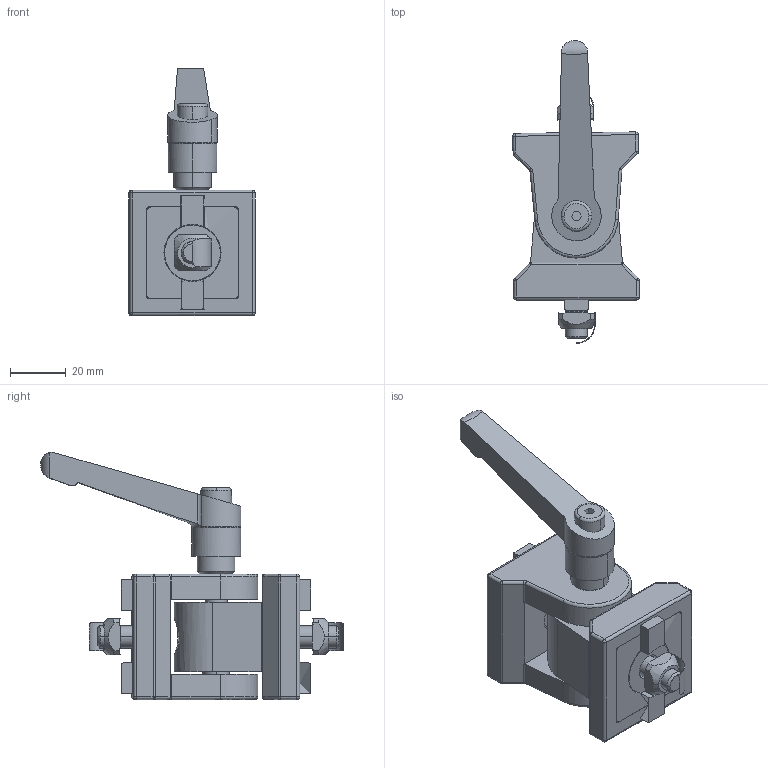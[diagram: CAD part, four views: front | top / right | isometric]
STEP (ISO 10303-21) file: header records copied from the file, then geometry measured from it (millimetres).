
FILE_DESCRIPTION (( 'STEP AP214' ), '1' );
FILE_NAME ('1.4052 Kulmauloke GL Kiristettävä.STEP', '2025-09-11T10:58:37', ( '' ), ( '' ), 'SwSTEP 2.0', 'SolidWorks 2025', '' );
FILE_SCHEMA (( 'AUTOMOTIVE_DESIGN' ));
Length unit declared in the file: millimetre
Products named in the file (3): Alaosa; 1.4052 Kulmauloke GL Kiristettävä; Yläosa
Assembly tree (2 placements, depth 2):
  1.4052 Kulmauloke GL Kiristettävä
    Alaosa
    Yläosa
Bounding box: 45.35 x 108.63 x 88.69 mm (x, y, z)
Surface area: 33206.6 mm2 (no closed solid volume)
Topology: 0 solids, 14 shells, 284 faces, 758 edges, 470 vertices
Faces by surface type: plane 121, cylinder 110, sphere 20, cone 18, torus 15
Entity records: 14784 total; most frequent: CARTESIAN_POINT 7569, ORIENTED_EDGE 1352, EDGE_CURVE 738, B_SPLINE_CURVE_WITH_KNOTS 732, DIRECTION 588, VERTEX_POINT 470, EDGE_LOOP 307, AXIS2_PLACEMENT_3D 293
